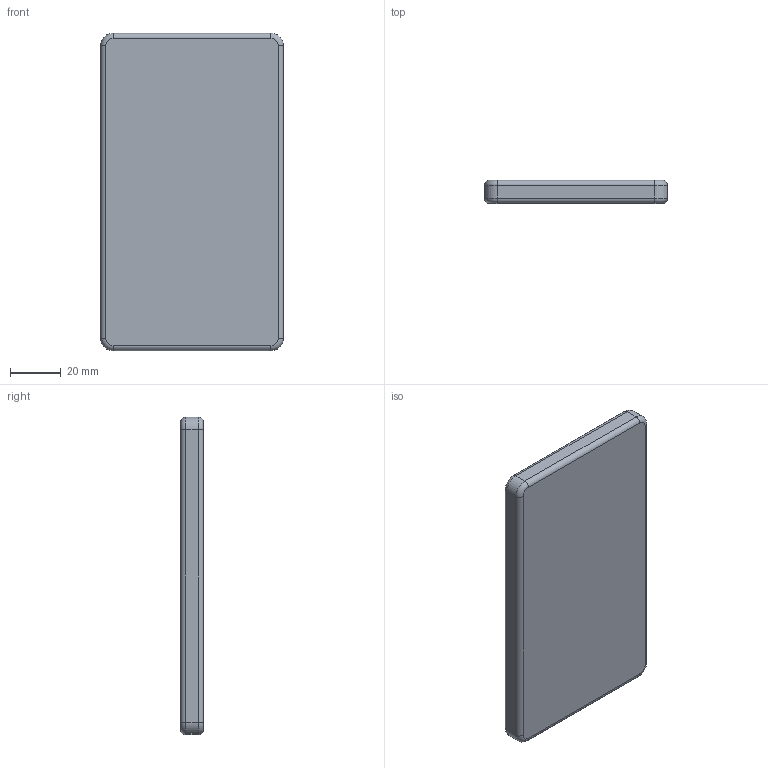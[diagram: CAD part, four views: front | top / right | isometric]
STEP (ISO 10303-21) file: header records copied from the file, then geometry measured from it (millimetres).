
FILE_DESCRIPTION(/* description */ (''),/* implementation_level */ '2;1');
FILE_NAME(/* name */ 'booster_case.step',/* time_stamp */ '2025-11-19T12:54:46+01:00',/* author */ (''),/* organization */ (''),/* preprocessor_version */ 'ST-DEVELOPER v20.1',/* originating_system */ 'Autodesk Translation Framework v14.21.0.0',/* authorisation */ '');
FILE_SCHEMA (('AUTOMOTIVE_DESIGN { 1 0 10303 214 3 1 1 }'));
Length unit declared in the file: millimetre
Products named in the file (1): booster
Bounding box: 72 x 9 x 125 mm (x, y, z)
Volume: 29661.3 mm3; surface area: 28728.3 mm2
Topology: 2 solids, 2 shells, 44 faces, 104 edges, 64 vertices
Faces by surface type: plane 20, cylinder 16, torus 8
Entity records: 1307 total; most frequent: DIRECTION 238, CARTESIAN_POINT 213, ORIENTED_EDGE 208, EDGE_CURVE 104, AXIS2_PLACEMENT_3D 89, VERTEX_POINT 64, LINE 60, VECTOR 60
